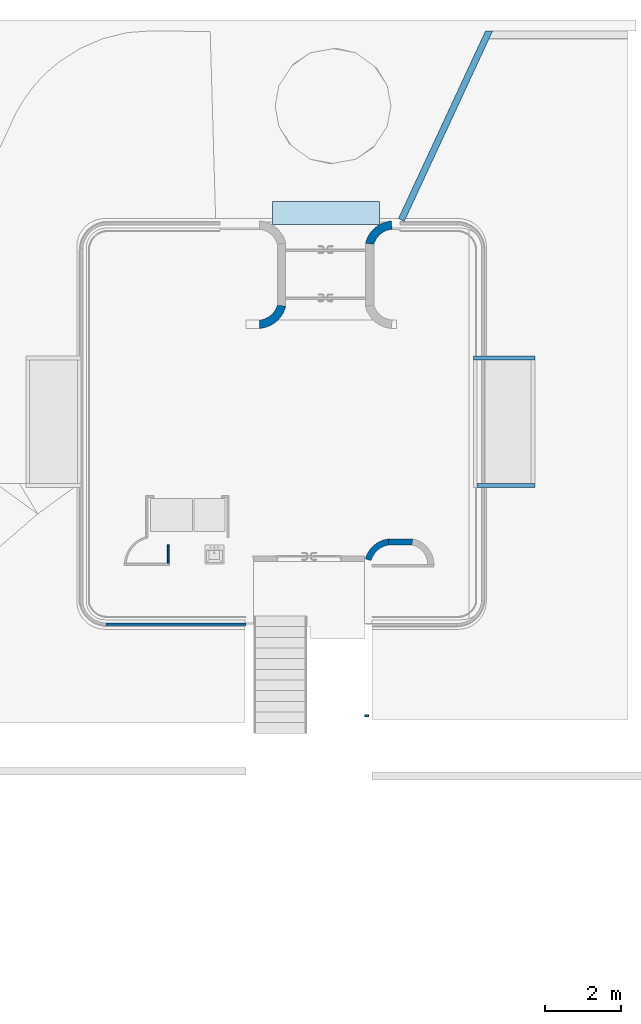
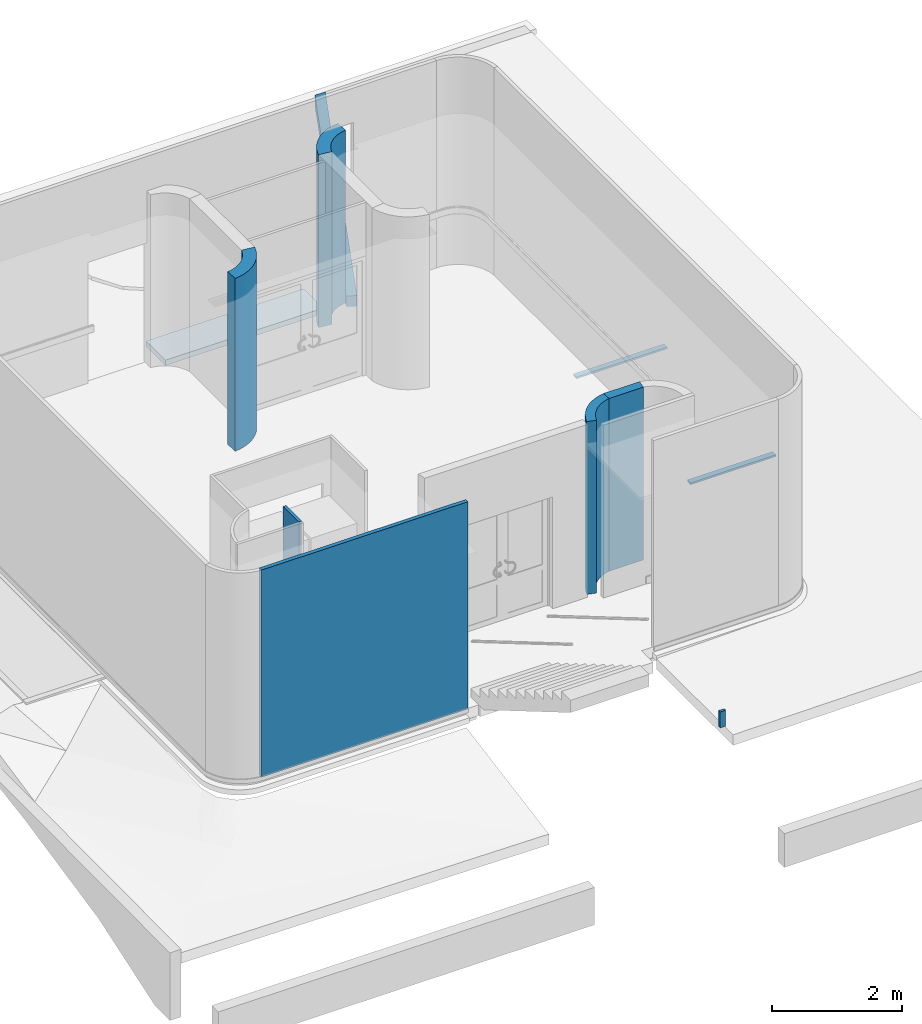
# One storey, part 1 of 6: 10 walls, 1 slab.
"""IFC2X3 building model written with IfcOpenShell, lengths in metres."""

from ifc_helpers import new_model, entity, si_unit, converted_unit, derived_unit, direction, frame, frame_2d, origin, place, context, subcontext, project, spatial, polyline, circle_curve, parameter, trimmed, segment, composite_curve, rectangle, outline, extrude, clip, bounded_halfspace, material, layer, layer_set, layer_usage, type_object, element, save


model = new_model("IFC2X3")

# Units and contexts
model_context = context("Model", 3, precision=1e-05, world=origin(), true_north=direction((6.12303176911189e-17, 1.0)))
body_context = subcontext(model_context, "Body", "Model", "MODEL_VIEW")
ifc_project = project(units=[si_unit("LENGTHUNIT", "METRE"), si_unit("AREAUNIT", "SQUARE_METRE"), si_unit("VOLUMEUNIT", "CUBIC_METRE"), converted_unit("PLANEANGLEUNIT", "DEGREE", entity("IfcRatioMeasure", 0.0174532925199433), si_unit("PLANEANGLEUNIT", "RADIAN"), dimensions=[0, 0, 0, 0, 0, 0, 0]), si_unit("MASSUNIT", "GRAM", prefix="KILO"), derived_unit("MASSDENSITYUNIT", [(si_unit("MASSUNIT", "GRAM", prefix="KILO"), 1), (si_unit("LENGTHUNIT", "METRE"), -3)]), derived_unit("MOMENTOFINERTIAUNIT", [(si_unit("LENGTHUNIT", "METRE"), 4)]), si_unit("TIMEUNIT", "SECOND"), si_unit("FREQUENCYUNIT", "HERTZ"), si_unit("THERMODYNAMICTEMPERATUREUNIT", "DEGREE_CELSIUS"), derived_unit("THERMALTRANSMITTANCEUNIT", [(si_unit("MASSUNIT", "GRAM", prefix="KILO"), 1), (si_unit("THERMODYNAMICTEMPERATUREUNIT", "KELVIN"), -1), (si_unit("TIMEUNIT", "SECOND"), -3)]), derived_unit("VOLUMETRICFLOWRATEUNIT", [(si_unit("LENGTHUNIT", "METRE"), 3), (si_unit("TIMEUNIT", "SECOND"), -1)]), si_unit("ELECTRICCURRENTUNIT", "AMPERE"), si_unit("ELECTRICVOLTAGEUNIT", "VOLT"), si_unit("POWERUNIT", "WATT"), si_unit("FORCEUNIT", "NEWTON", prefix="KILO"), si_unit("ILLUMINANCEUNIT", "LUX"), si_unit("LUMINOUSFLUXUNIT", "LUMEN"), si_unit("LUMINOUSINTENSITYUNIT", "CANDELA"), derived_unit("USERDEFINED", [(si_unit("MASSUNIT", "GRAM", prefix="KILO"), -1), (si_unit("LENGTHUNIT", "METRE"), -2), (si_unit("TIMEUNIT", "SECOND"), 3), (si_unit("LUMINOUSFLUXUNIT", "LUMEN"), 1)]), derived_unit("LINEARVELOCITYUNIT", [(si_unit("LENGTHUNIT", "METRE"), 1), (si_unit("TIMEUNIT", "SECOND"), -1)]), si_unit("PRESSUREUNIT", "PASCAL"), derived_unit("USERDEFINED", [(si_unit("LENGTHUNIT", "METRE"), -2), (si_unit("MASSUNIT", "GRAM", prefix="KILO"), 1), (si_unit("TIMEUNIT", "SECOND"), -2)]), derived_unit("LINEARFORCEUNIT", [(si_unit("MASSUNIT", "GRAM", prefix="KILO"), 1), (si_unit("LENGTHUNIT", "METRE"), 1), (si_unit("TIMEUNIT", "SECOND"), -2), (si_unit("LENGTHUNIT", "METRE"), -1)]), derived_unit("PLANARFORCEUNIT", [(si_unit("MASSUNIT", "GRAM", prefix="KILO"), 1), (si_unit("LENGTHUNIT", "METRE"), 1), (si_unit("TIMEUNIT", "SECOND"), -2), (si_unit("LENGTHUNIT", "METRE"), -2)])], contexts=[model_context])

# Site, building, storey
site_placement = place(None, origin())
site = spatial("IfcSite", under=ifc_project, at=site_placement, Name="Default", CompositionType="ELEMENT")
building_placement = place(site_placement, origin())
building = spatial("IfcBuilding", under=site, at=building_placement, CompositionType="ELEMENT")
storey_placement = place(building_placement, frame((0.0, 0.0, 2.31330827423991)))
storey = spatial("IfcBuildingStorey", under=building, at=storey_placement, Name="Niveau 00 - 03", CompositionType="ELEMENT", Elevation=2.31330827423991)

# Slab
ifc_material_1 = material(Name="Asphalte, bitume")
ifc_layer_1 = layer(ifc_material_1, 0.1)
ifc_layer_set_1 = layer_set([ifc_layer_1], Name="Sol:Générique 100 mm - Plein")
ifc_layer_usage_1 = layer_usage(ifc_layer_set_1, "AXIS3", "POSITIVE", 0.0)
slab_type = type_object("IfcSlabType", Name="Sol:Générique 100 mm - Plein", PredefinedType="FLOOR", material=ifc_layer_set_1)
slab_placement = place(storey_placement, origin())
element("IfcSlab", 1, at=slab_placement, inside=storey, type_object=slab_type, material=ifc_layer_usage_1, Name="Sol:Générique 100 mm - Plein", ObjectType="Sol:Générique 100 mm - Plein", PredefinedType="FLOOR", context=body_context, shape_type="SweptSolid", body=[
    extrude(rectangle(XDim=0.600000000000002, YDim=2.81377008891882, at=frame_2d((-4.32986979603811e-15, 1.11022302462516e-15), x_axis=(1.0, 0.0))), frame((-16.8430842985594, 26.4038110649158, -0.0599999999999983), z_axis=(0.0, 0.0, -1.0), x_axis=(0.0, 1.0, 0.0)), (0.0, 0.0, 1.0), 0.1),
])

# Walls
ifc_material_2 = material(Name="Verre")
ifc_layer_2 = layer(ifc_material_2, 0.07)
ifc_layer_set_2 = layer_set([ifc_layer_2], Name="Mur de base:Mur en verre 70")
ifc_layer_usage_2 = layer_usage(ifc_layer_set_2, "AXIS2", "POSITIVE", -0.035)
wall_type_1 = type_object("IfcWallType", Name="Mur de base:Mur en verre 70", PredefinedType="STANDARD", material=ifc_layer_set_2)
wall_1_placement = place(storey_placement, frame((-18.9440938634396, 15.5971770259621, 0.0), z_axis=(0.0, 0.0, 1.0), x_axis=(-1.0, 0.0, 0.0)))
element("IfcWallStandardCase", 2, at=wall_1_placement, inside=storey, type_object=wall_type_1, material=ifc_layer_usage_2, Name="Mur de base:Mur en verre 70", ObjectType="Mur de base:Mur en verre 70", context=body_context, shape_type="SweptSolid", body=[
    extrude(outline(polyline([(3.67880436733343, -0.0350000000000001), (3.6806935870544, 0.0349999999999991), (0.0, 0.0349999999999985), (0.0, -0.0349999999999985), (3.67880436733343, -0.0350000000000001)])), origin(), (0.0, 0.0, 1.0), 3.90856448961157),
])
ifc_material_3 = material(Name="Mur par défaut")
ifc_layer_3 = layer(ifc_material_3, 0.1)
ifc_layer_set_3 = layer_set([ifc_layer_3], Name="Mur de base:@_Générique - Int. 100 mm")
ifc_layer_usage_3 = layer_usage(ifc_layer_set_3, "AXIS2", "NEGATIVE", 0.05)
wall_type_2 = type_object("IfcWallType", Name="Mur de base:@_Générique - Int. 100 mm", PredefinedType="STANDARD", material=ifc_layer_set_3)
wall_2_placement = place(storey_placement, frame((-11.3539252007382, 22.5939517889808, -0.1), z_axis=(0.0, 0.0, 1.0), x_axis=(-1.0, 0.0, 0.0)))
element("IfcWallStandardCase", 3, at=wall_2_placement, inside=storey, type_object=wall_type_2, material=ifc_layer_usage_3, Name="Mur de base:@_Générique - Int. 100 mm", ObjectType="Mur de base:@_Générique - Int. 100 mm", context=body_context, shape_type="SweptSolid", body=[
    extrude(rectangle(XDim=1.62000000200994, YDim=0.100000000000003, at=frame_2d((0.81000000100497, 7.94503351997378e-16), x_axis=(-1.0, 0.0))), origin(), (0.0, 0.0, 1.0), 0.0349999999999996),
])
ifc_layer_usage_4 = layer_usage(ifc_layer_set_3, "AXIS2", "NEGATIVE", 0.05)
wall_3_placement = place(storey_placement, frame((-12.8739252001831, 19.2439517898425, -0.1)))
element("IfcWallStandardCase", 4, at=wall_3_placement, inside=storey, type_object=wall_type_2, material=ifc_layer_usage_4, Name="Mur de base:@_Générique - Int. 100 mm", ObjectType="Mur de base:@_Générique - Int. 100 mm", context=body_context, shape_type="SweptSolid", body=[
    extrude(rectangle(XDim=1.51999999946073, YDim=0.0999999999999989, at=frame_2d((0.759999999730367, 3.46944695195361e-18), x_axis=(-1.0, 0.0))), origin(), (0.0, 0.0, 1.0), 0.0349999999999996),
])
ifc_layer_usage_5 = layer_usage(ifc_layer_set_3, "AXIS2", "NEGATIVE", 0.05)
wall_4_placement = place(storey_placement, frame((-15.7739891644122, 13.1727376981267, 0.0), z_axis=(0.0, 0.0, 1.0), x_axis=(0.0, 1.0, 0.0)))
element("IfcWallStandardCase", 5, at=wall_4_placement, inside=storey, type_object=wall_type_2, material=ifc_layer_usage_5, Name="Mur de base:@_Générique - Int. 100 mm", ObjectType="Mur de base:@_Générique - Int. 100 mm", context=body_context, shape_type="SweptSolid", body=[
    extrude(rectangle(XDim=0.0499999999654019, YDim=0.0999999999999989, at=frame_2d((0.0249999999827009, 1.94289029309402e-16), x_axis=(-1.0, 0.0))), origin(), (0.0, 0.0, 1.0), 0.3),
])
ifc_material_4 = material(Name="Maçonnerie - Voile BA")
ifc_layer_4 = layer(ifc_material_4, 0.16)
ifc_layer_set_4 = layer_set([ifc_layer_4], Name="Mur de base:Ext. Voile BA 160")
ifc_layer_usage_6 = layer_usage(ifc_layer_set_4, "AXIS2", "NEGATIVE", 0.08)
wall_type_3 = type_object("IfcWallType", Name="Mur de base:Ext. Voile BA 160", PredefinedType="STANDARD", material=ifc_layer_set_4)
wall_5_placement = place(storey_placement, frame((-15.1995029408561, 17.7639975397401, 0.0), z_axis=(0.0, 0.0, 1.0), x_axis=(0.0, 1.0, 0.0)))
element("IfcWallStandardCase", 6, at=wall_5_placement, inside=storey, type_object=wall_type_3, material=ifc_layer_usage_6, Name="Mur de base:Ext. Voile BA 160", ObjectType="Mur de base:Ext. Voile BA 160", context=body_context, shape_type="Clipping", body=[
    clip(extrude(outline(polyline([(-0.49132635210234, 0.459268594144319), (-0.457829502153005, 0.448791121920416), (-0.425102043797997, 0.436303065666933), (-0.360034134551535, 0.404172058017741), (-0.299546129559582, 0.364041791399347), (-0.244634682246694, 0.316570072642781), (-0.196183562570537, 0.262521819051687), (-0.154973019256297, 0.202767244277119), (-0.121667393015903, 0.138268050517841), (-0.0968057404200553, 0.0700662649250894), (-0.0807872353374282, -0.000752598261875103), (0.07921276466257, 0.0111954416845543), (0.0625371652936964, 0.0941855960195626), (0.0363908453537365, 0.174681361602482), (0.00112249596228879, 0.251617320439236), (-0.0427943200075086, 0.323962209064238), (-0.0947719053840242, 0.390749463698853), (-0.154115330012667, 0.451086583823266), (-0.220031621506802, 0.504166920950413), (-0.291640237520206, 0.549280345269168), (-0.367970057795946, 0.585816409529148), (-0.40768652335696, 0.60074590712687), (-0.448273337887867, 0.613367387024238), (-0.49132635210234, 0.459268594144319)])), origin(), (0.0, 0.0, 1.0), 3.25856448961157), bounded_halfspace(frame((-0.491326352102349, 0.459268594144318, 3.25856448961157), z_axis=(0.0, 0.0, -1.0), x_axis=(0.0, 1.0, 0.0)), True, frame((-0.491326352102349, 0.459268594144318, 3.25856448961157)), composite_curve([segment(trimmed(circle_curve(frame_2d((-0.0468741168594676, -0.167775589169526), x_axis=(1.0, 0.0)), 0.571524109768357), [parameter(67.3628147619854)], [parameter(74.3903915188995)], True, "PARAMETER"), False, "CONTINUOUS"), segment(trimmed(circle_curve(frame_2d((-0.0468741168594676, -0.167775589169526), x_axis=(1.0, 0.0)), 0.571524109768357), [parameter(9.10330024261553)], [parameter(67.3628147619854)], True, "PARAMETER"), False, "CONTINUOUS"), segment(polyline([(0.125132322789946, -0.140214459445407), (0.173900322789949, -0.136572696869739)]), True, "CONTINUOUS"), segment(trimmed(circle_curve(frame_2d((-0.0468741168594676, -0.167775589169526), x_axis=(1.0, 0.0)), 0.731524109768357), [parameter(8.04454913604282)], [parameter(67.7390810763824)], True, "PARAMETER"), True, "CONTINUOUS"), segment(trimmed(circle_curve(frame_2d((-0.0468741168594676, -0.167775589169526), x_axis=(1.0, 0.0)), 0.731524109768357), [parameter(67.7390810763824)], [parameter(74.3903915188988)], True, "PARAMETER"), True, "CONTINUOUS"), segment(polyline([(0.0131225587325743, 0.0469693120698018), (0.0, 0.0)]), True, "CONTINUOUS")], self_intersect=False))),
])
ifc_layer_usage_7 = layer_usage(ifc_layer_set_4, "AXIS2", "NEGATIVE", 0.08)
wall_6_placement = place(storey_placement, frame((-14.5673974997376, 17.7632103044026, 0.0), z_axis=(0.0, 0.0, 1.0), x_axis=(-1.0, 0.0, 0.0)))
element("IfcWallStandardCase", 7, at=wall_6_placement, inside=storey, type_object=wall_type_3, material=ifc_layer_usage_7, Name="Mur de base:Ext. Voile BA 160", ObjectType="Mur de base:Ext. Voile BA 160", context=body_context, shape_type="Clipping", body=[
    clip(extrude(outline(polyline([(0.643300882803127, -0.0800000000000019), (0.6313528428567, 0.0799999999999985), (0.0168335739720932, 0.0799999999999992), (0.0, -0.0800000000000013), (0.643300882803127, -0.0800000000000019)])), origin(), (0.0, 0.0, 1.0), 3.25856448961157), bounded_halfspace(frame((0.0, -0.0800000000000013, 3.25856448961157), z_axis=(0.0, 0.0, -1.0), x_axis=(1.0, 0.0, 0.0)), True, frame((0.0, -0.0800000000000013, 3.25856448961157)), polyline([(0.0, 0.0), (0.643300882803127, 0.0), (0.6313528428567, 0.159999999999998), (0.016833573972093, 0.16), (0.0, 0.0)]))),
])
ifc_material_5 = material(Name="Finition vertical béton")
ifc_layer_5 = layer(ifc_material_5, 0.02)
ifc_layer_6 = layer(ifc_material_4, 0.15)
ifc_layer_set_5 = layer_set([ifc_layer_5, ifc_layer_6], Name="Mur de base:Mur EXE 150- Hach")
ifc_layer_usage_8 = layer_usage(ifc_layer_set_5, "AXIS2", "NEGATIVE", 0.085)
wall_type_4 = type_object("IfcWallType", Name="Mur de base:Mur EXE 150- Hach", PredefinedType="STANDARD", material=ifc_layer_set_5)
wall_7_placement = place(storey_placement, frame((-14.8643509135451, 26.2189517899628, -0.3), z_axis=(0.0, 0.0, 1.0), x_axis=(0.421094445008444, 0.907016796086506, 0.0)))
element("IfcWallStandardCase", 8, at=wall_7_placement, inside=storey, type_object=wall_type_4, material=ifc_layer_usage_8, Name="Mur de base:Mur EXE 150- Hach", ObjectType="Mur de base:Mur EXE 150- Hach", context=body_context, shape_type="SweptSolid", body=[
    extrude(outline(polyline([(0.0, 0.0850000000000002), (0.0, -0.0850000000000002), (0.0785185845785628, -0.0850000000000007), (5.28888576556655, -0.0849999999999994), (5.50938884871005, -0.0850000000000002), (5.43046411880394, 0.0850000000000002), (0.0, 0.0850000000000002)])), origin(), (0.0, 0.0, 1.0), 0.2),
])
ifc_layer_7 = layer(ifc_material_4, 0.22)
ifc_layer_set_6 = layer_set([ifc_layer_7], Name="Mur de base:Ext. Voile BA 220")
ifc_layer_usage_9 = layer_usage(ifc_layer_set_6, "AXIS2", "NEGATIVE", 0.11)
wall_type_5 = type_object("IfcWallType", Name="Mur de base:Ext. Voile BA 220", PredefinedType="STANDARD", material=ifc_layer_set_6)
wall_8_placement = place(storey_placement, frame((-18.5919805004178, 23.4789670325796, 0.0), z_axis=(0.0, 0.0, 1.0), x_axis=(0.0, -1.0, 0.0)))
element("IfcWallStandardCase", 9, at=wall_8_placement, inside=storey, type_object=wall_type_5, material=ifc_layer_usage_9, Name="Mur de base:Ext. Voile BA 220", ObjectType="Mur de base:Ext. Voile BA 220", context=body_context, shape_type="SweptSolid", body=[
    extrude(outline(composite_curve([segment(trimmed(circle_curve(frame_2d((-0.649643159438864, -0.0494715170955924), x_axis=(1.0, 0.0)), 0.541524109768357), [parameter(5.16465147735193)], [parameter(74.2116536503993)], True, "PARAMETER"), False, "CONTINUOUS"), segment(polyline([(-0.110317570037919, -0.000724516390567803), (0.109682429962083, 0.00835251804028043)]), True, "CONTINUOUS"), segment(trimmed(circle_curve(frame_2d((-0.649643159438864, -0.0494715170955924), x_axis=(1.0, 0.0)), 0.761524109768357), [parameter(4.3547736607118)], [parameter(76.6983800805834)], True, "PARAMETER"), True, "CONTINUOUS"), segment(polyline([(-0.47443378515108, 0.691622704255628), (-0.502302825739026, 0.471622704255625)]), True, "CONTINUOUS")], self_intersect=False)), origin(), (0.0, 0.0, 1.0), 3.25856448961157),
])
ifc_layer_usage_10 = layer_usage(ifc_layer_set_6, "AXIS2", "NEGATIVE", 0.11)
wall_9_placement = place(storey_placement, frame((-15.1137350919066, 26.0819224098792, 0.0), z_axis=(0.0, 0.0, 1.0), x_axis=(0.0, 1.0, 0.0)))
element("IfcWallStandardCase", 10, at=wall_9_placement, inside=storey, type_object=wall_type_5, material=ifc_layer_usage_10, Name="Mur de base:Ext. Voile BA 220", ObjectType="Mur de base:Ext. Voile BA 220", context=body_context, shape_type="SweptSolid", body=[
    extrude(outline(composite_curve([segment(trimmed(circle_curve(frame_2d((-0.649643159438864, -0.0494715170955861), x_axis=(1.0, 0.0)), 0.541524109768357), [parameter(5.16465147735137)], [parameter(74.2116536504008)], True, "PARAMETER"), False, "CONTINUOUS"), segment(polyline([(-0.110317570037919, -0.000724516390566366), (0.109682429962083, 0.008352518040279)]), True, "CONTINUOUS"), segment(trimmed(circle_curve(frame_2d((-0.649643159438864, -0.0494715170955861), x_axis=(1.0, 0.0)), 0.761524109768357), [parameter(4.35477366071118)], [parameter(76.698380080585)], True, "PARAMETER"), True, "CONTINUOUS"), segment(polyline([(-0.474433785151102, 0.691622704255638), (-0.502302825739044, 0.471622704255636)]), True, "CONTINUOUS")], self_intersect=False)), origin(), (0.0, 0.0, 1.0), 3.25856448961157),
])
ifc_layer_8 = layer(ifc_material_3, 0.05)
ifc_layer_set_7 = layer_set([ifc_layer_8], Name="Mur de base:@_Générique - Int. 50 mm")
ifc_layer_usage_11 = layer_usage(ifc_layer_set_7, "AXIS2", "NEGATIVE", 0.025)
wall_type_6 = type_object("IfcWallType", Name="Mur de base:@_Générique - Int. 50 mm", PredefinedType="STANDARD", material=ifc_layer_set_7)
wall_10_placement = place(storey_placement, frame((-20.9863825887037, 17.6832103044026, 0.0), z_axis=(0.0, 0.0, 1.0), x_axis=(0.0, -1.0, 0.0)))
element("IfcWallStandardCase", 11, at=wall_10_placement, inside=storey, type_object=wall_type_6, material=ifc_layer_usage_11, Name="Mur de base:@_Générique - Int. 50 mm", ObjectType="Mur de base:@_Générique - Int. 50 mm", context=body_context, shape_type="SweptSolid", body=[
    extrude(rectangle(XDim=0.485000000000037, YDim=0.0499999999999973, at=frame_2d((0.242500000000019, 0.0), x_axis=(-1.0, 0.0))), origin(), (0.0, 0.0, 1.0), 3.25856448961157),
])

save(model, "model.ifc")
